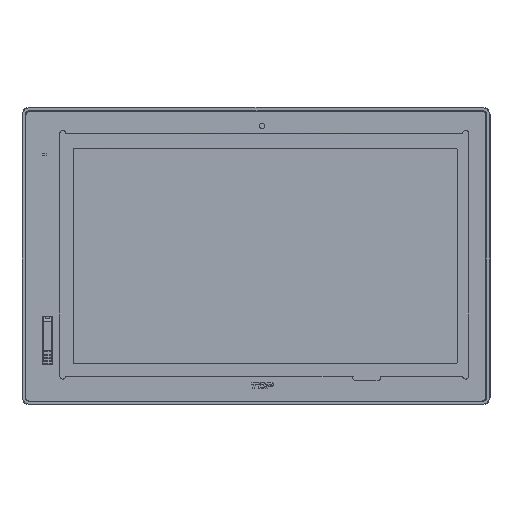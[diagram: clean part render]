
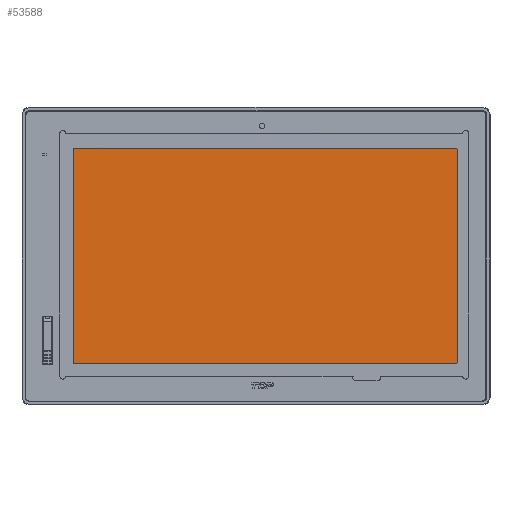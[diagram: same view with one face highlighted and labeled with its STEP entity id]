
A CAD part, top view. The second image highlights one B-rep face of the part: STEP entity #53588.
In plain terms, the highlighted planar face has unit normal (0, 0, 1).
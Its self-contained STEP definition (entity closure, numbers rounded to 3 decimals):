
#2314=DIRECTION('',(0.,1.,0.));
#2315=VECTOR('',#2314,258.);
#2316=CARTESIAN_POINT('',(-214.7,-127.7,0.6));
#2317=LINE('',#2316,#2315);
#2318=CARTESIAN_POINT('',(-211.7,130.3,0.6));
#2319=DIRECTION('',(0.,0.,-1.));
#2320=DIRECTION('',(-1.,0.,0.));
#2321=AXIS2_PLACEMENT_3D('',#2318,#2319,#2320);
#2323=DIRECTION('',(1.,0.,0.));
#2324=VECTOR('',#2323,421.8);
#2325=CARTESIAN_POINT('',(-208.7,130.3,0.6));
#2326=LINE('',#2325,#2324);
#2327=CARTESIAN_POINT('',(216.1,130.3,0.6));
#2328=DIRECTION('',(0.,0.,-1.));
#2329=DIRECTION('',(-1.,0.,0.));
#2330=AXIS2_PLACEMENT_3D('',#2327,#2328,#2329);
#2332=DIRECTION('',(0.,-1.,0.));
#2333=VECTOR('',#2332,258.);
#2334=CARTESIAN_POINT('',(219.1,130.3,0.6));
#2335=LINE('',#2334,#2333);
#2336=CARTESIAN_POINT('',(216.1,-127.7,0.6));
#2337=DIRECTION('',(0.,0.,-1.));
#2338=DIRECTION('',(1.,0.,0.));
#2339=AXIS2_PLACEMENT_3D('',#2336,#2337,#2338);
#2341=DIRECTION('',(-1.,0.,0.));
#2342=VECTOR('',#2341,87.462);
#2343=CARTESIAN_POINT('',(213.1,-127.7,0.6));
#2344=LINE('',#2343,#2342);
#2345=CARTESIAN_POINT('',(123.1,-129.3,0.6));
#2346=DIRECTION('',(0.,0.,-1.));
#2347=DIRECTION('',(0.846,0.533,0.));
#2348=AXIS2_PLACEMENT_3D('',#2345,#2346,#2347);
#2350=DIRECTION('',(-1.,0.,0.));
#2351=VECTOR('',#2350,24.);
#2352=CARTESIAN_POINT('',(123.1,-132.3,0.6));
#2353=LINE('',#2352,#2351);
#2354=CARTESIAN_POINT('',(99.1,-129.3,0.6));
#2355=DIRECTION('',(0.,0.,-1.));
#2356=DIRECTION('',(0.,-1.,0.));
#2357=AXIS2_PLACEMENT_3D('',#2354,#2355,#2356);
#2359=DIRECTION('',(-1.,0.,0.));
#2360=VECTOR('',#2359,305.262);
#2361=CARTESIAN_POINT('',(96.562,-127.7,0.6));
#2362=LINE('',#2361,#2360);
#2363=CARTESIAN_POINT('',(-211.7,-127.7,0.6));
#2364=DIRECTION('',(0.,0.,-1.));
#2365=DIRECTION('',(1.,0.,0.));
#2366=AXIS2_PLACEMENT_3D('',#2363,#2364,#2365);
#45976=CARTESIAN_POINT('',(-214.7,-127.7,0.6));
#45977=CARTESIAN_POINT('',(-214.7,130.3,0.6));
#45978=VERTEX_POINT('',#45976);
#45979=VERTEX_POINT('',#45977);
#45980=CARTESIAN_POINT('',(-208.7,130.3,0.6));
#45981=VERTEX_POINT('',#45980);
#45982=CARTESIAN_POINT('',(213.1,130.3,0.6));
#45983=VERTEX_POINT('',#45982);
#45984=CARTESIAN_POINT('',(219.1,130.3,0.6));
#45985=VERTEX_POINT('',#45984);
#45986=CARTESIAN_POINT('',(219.1,-127.7,0.6));
#45987=VERTEX_POINT('',#45986);
#45988=CARTESIAN_POINT('',(213.1,-127.7,0.6));
#45989=VERTEX_POINT('',#45988);
#45990=CARTESIAN_POINT('',(125.638,-127.7,0.6));
#45991=VERTEX_POINT('',#45990);
#45992=CARTESIAN_POINT('',(123.1,-132.3,0.6));
#45993=VERTEX_POINT('',#45992);
#45994=CARTESIAN_POINT('',(99.1,-132.3,0.6));
#45995=VERTEX_POINT('',#45994);
#45996=CARTESIAN_POINT('',(96.562,-127.7,0.6));
#45997=VERTEX_POINT('',#45996);
#45998=CARTESIAN_POINT('',(-208.7,-127.7,0.6));
#45999=VERTEX_POINT('',#45998);
#53569=CARTESIAN_POINT('',(0.,0.,0.6));
#53570=DIRECTION('',(0.,0.,1.));
#53571=DIRECTION('',(1.,0.,0.));
#53572=AXIS2_PLACEMENT_3D('',#53569,#53570,#53571);
#53573=PLANE('',#53572);
#53574=ORIENTED_EDGE('',*,*,#53409,.T.);
#53575=ORIENTED_EDGE('',*,*,#53424,.T.);
#53576=ORIENTED_EDGE('',*,*,#53438,.T.);
#53577=ORIENTED_EDGE('',*,*,#53452,.T.);
#53578=ORIENTED_EDGE('',*,*,#53466,.T.);
#53579=ORIENTED_EDGE('',*,*,#53480,.T.);
#53580=ORIENTED_EDGE('',*,*,#53494,.T.);
#53581=ORIENTED_EDGE('',*,*,#53508,.T.);
#53582=ORIENTED_EDGE('',*,*,#53522,.T.);
#53583=ORIENTED_EDGE('',*,*,#53536,.T.);
#53584=ORIENTED_EDGE('',*,*,#53550,.T.);
#53585=ORIENTED_EDGE('',*,*,#53563,.T.);
#53586=EDGE_LOOP('',(#53574,#53575,#53576,#53577,#53578,#53579,#53580,#53581,
#53582,#53583,#53584,#53585));
#53587=FACE_OUTER_BOUND('',#53586,.F.);
#53588=ADVANCED_FACE('',(#53587),#53573,.T.);
#2322=CIRCLE('',#2321,3.);
#2331=CIRCLE('',#2330,3.);
#2340=CIRCLE('',#2339,3.);
#2349=CIRCLE('',#2348,3.);
#2358=CIRCLE('',#2357,3.);
#2367=CIRCLE('',#2366,3.);
#53409=EDGE_CURVE('',#45978,#45979,#2317,.T.);
#53424=EDGE_CURVE('',#45979,#45981,#2322,.T.);
#53438=EDGE_CURVE('',#45981,#45983,#2326,.T.);
#53452=EDGE_CURVE('',#45983,#45985,#2331,.T.);
#53466=EDGE_CURVE('',#45985,#45987,#2335,.T.);
#53480=EDGE_CURVE('',#45987,#45989,#2340,.T.);
#53494=EDGE_CURVE('',#45989,#45991,#2344,.T.);
#53508=EDGE_CURVE('',#45991,#45993,#2349,.T.);
#53522=EDGE_CURVE('',#45993,#45995,#2353,.T.);
#53536=EDGE_CURVE('',#45995,#45997,#2358,.T.);
#53550=EDGE_CURVE('',#45997,#45999,#2362,.T.);
#53563=EDGE_CURVE('',#45999,#45978,#2367,.T.);
